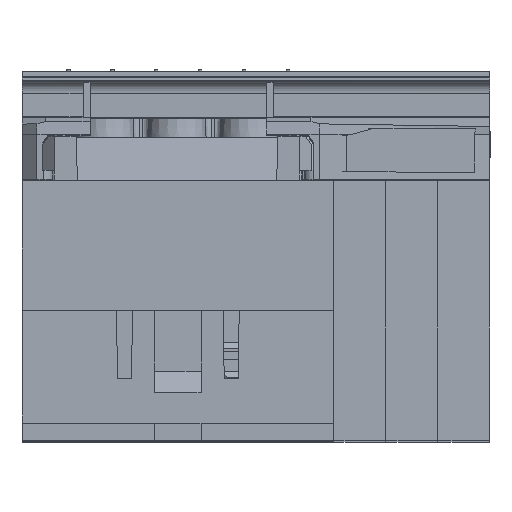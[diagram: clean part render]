
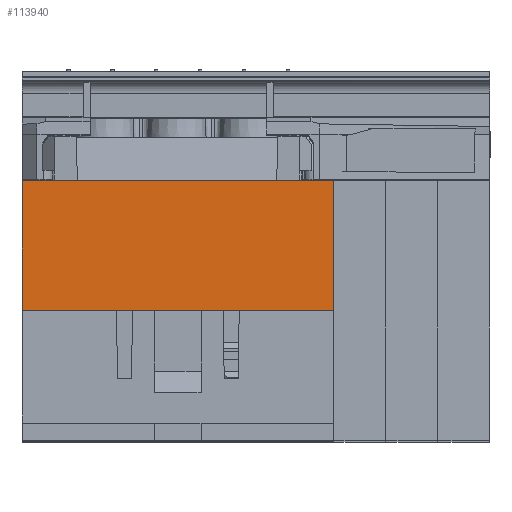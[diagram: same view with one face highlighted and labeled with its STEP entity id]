
A CAD part, top view. The second image highlights one B-rep face of the part: STEP entity #113940.
In plain terms, the highlighted planar face has unit normal (0, 0, 1).
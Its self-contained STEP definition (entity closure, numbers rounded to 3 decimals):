
#6492 = LINE ( 'NONE', #118053, #13239 ) ;
#13239 = VECTOR ( 'NONE', #129785, 1000. ) ;
#18194 = ORIENTED_EDGE ( 'NONE', *, *, #100779, .T. ) ;
#31393 = VECTOR ( 'NONE', #126633, 1000. ) ;
#32540 = VERTEX_POINT ( 'NONE', #138070 ) ;
#32680 = AXIS2_PLACEMENT_3D ( 'NONE', #80557, #79320, #107650 ) ;
#33265 = VECTOR ( 'NONE', #82561, 1000. ) ;
#39573 = VERTEX_POINT ( 'NONE', #103455 ) ;
#40027 = CARTESIAN_POINT ( 'NONE',  ( 195.707, -4., 200.2 ) ) ;
#51684 = VERTEX_POINT ( 'NONE', #100995 ) ;
#52358 = VECTOR ( 'NONE', #142255, 1000. ) ;
#63974 = VERTEX_POINT ( 'NONE', #84395 ) ;
#70028 = CARTESIAN_POINT ( 'NONE',  ( 27., 18.5, 200.2 ) ) ;
#73663 = EDGE_LOOP ( 'NONE', ( #135620, #18194, #116237, #100160 ) ) ;
#79320 = DIRECTION ( 'NONE',  ( 0., 0., 1. ) ) ;
#80557 = CARTESIAN_POINT ( 'NONE',  ( 195.707, 18.5, 200.2 ) ) ;
#82561 = DIRECTION ( 'NONE',  ( -1., 0., 0. ) ) ;
#84395 = CARTESIAN_POINT ( 'NONE',  ( -27., -4., 200.2 ) ) ;
#86155 = LINE ( 'NONE', #40027, #33265 ) ;
#94093 = PLANE ( 'NONE',  #32680 ) ;
#100160 = ORIENTED_EDGE ( 'NONE', *, *, #178454, .F. ) ;
#100779 = EDGE_CURVE ( 'NONE', #51684, #32540, #161501, .T. ) ;
#100995 = CARTESIAN_POINT ( 'NONE',  ( 27., 18.5, 200.2 ) ) ;
#103455 = CARTESIAN_POINT ( 'NONE',  ( 27., -4., 200.2 ) ) ;
#107650 = DIRECTION ( 'NONE',  ( 1., 0., 0. ) ) ;
#113940 = ADVANCED_FACE ( 'NONE', ( #182477 ), #94093, .T. ) ;
#116237 = ORIENTED_EDGE ( 'NONE', *, *, #171511, .F. ) ;
#118053 = CARTESIAN_POINT ( 'NONE',  ( -27., 18.5, 200.2 ) ) ;
#122892 = LINE ( 'NONE', #126898, #52358 ) ;
#126633 = DIRECTION ( 'NONE',  ( -1., 0., 0. ) ) ;
#126898 = CARTESIAN_POINT ( 'NONE',  ( 27., 18.5, 200.2 ) ) ;
#129785 = DIRECTION ( 'NONE',  ( 0., 1., 0. ) ) ;
#135620 = ORIENTED_EDGE ( 'NONE', *, *, #144389, .F. ) ;
#138070 = CARTESIAN_POINT ( 'NONE',  ( -27., 18.5, 200.2 ) ) ;
#142255 = DIRECTION ( 'NONE',  ( 0., -1., 0. ) ) ;
#144389 = EDGE_CURVE ( 'NONE', #51684, #39573, #122892, .T. ) ;
#161501 = LINE ( 'NONE', #70028, #31393 ) ;
#171511 = EDGE_CURVE ( 'NONE', #63974, #32540, #6492, .T. ) ;
#178454 = EDGE_CURVE ( 'NONE', #39573, #63974, #86155, .T. ) ;
#182477 = FACE_OUTER_BOUND ( 'NONE', #73663, .T. ) ;
